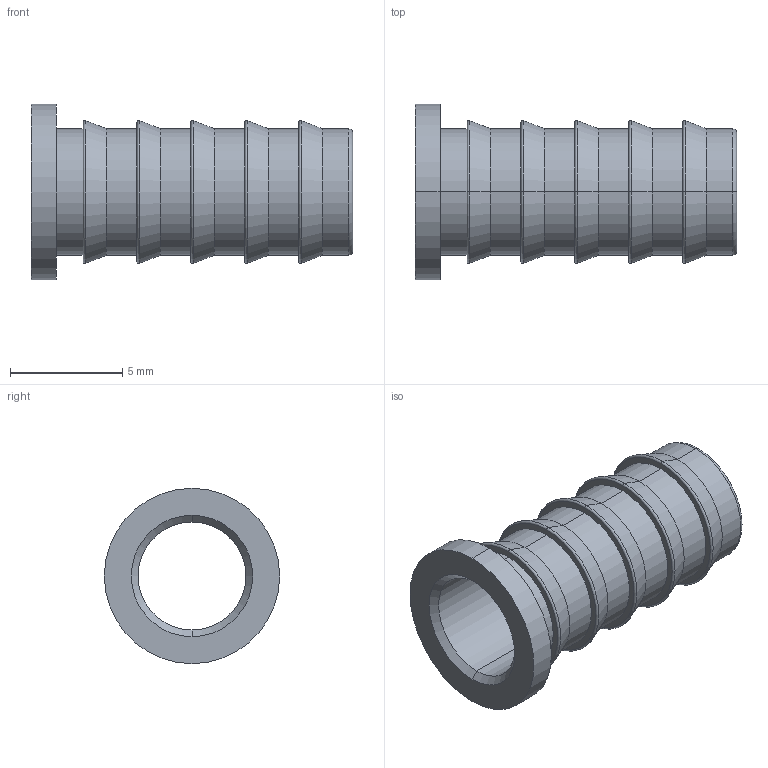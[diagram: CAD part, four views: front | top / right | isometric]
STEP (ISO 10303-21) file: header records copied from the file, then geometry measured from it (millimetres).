
FILE_DESCRIPTION (( 'STEP AP203' ), '1' );
FILE_NAME ('DTI05-04 SS.STEP', '2009-09-08T09:58:14', ( ' ' ), ( '' ), 'SwSTEP 2.0', 'SolidWorks 2008', '' );
FILE_SCHEMA (( 'CONFIG_CONTROL_DESIGN' ));
Length unit declared in the file: millimetre
Products named in the file (1): DTI05-04 SS
Bounding box: 14.3 x 7.8 x 7.8 mm (x, y, z)
Volume: 140 mm3; surface area: 572.9 mm2
Topology: 1 solids, 1 shells, 50 faces, 100 edges, 58 vertices
Faces by surface type: cylinder 16, cone 14, torus 12, plane 8
Entity records: 1387 total; most frequent: DIRECTION 272, CARTESIAN_POINT 209, ORIENTED_EDGE 200, AXIS2_PLACEMENT_3D 121, EDGE_CURVE 100, CIRCLE 70, EDGE_LOOP 58, VERTEX_POINT 58
